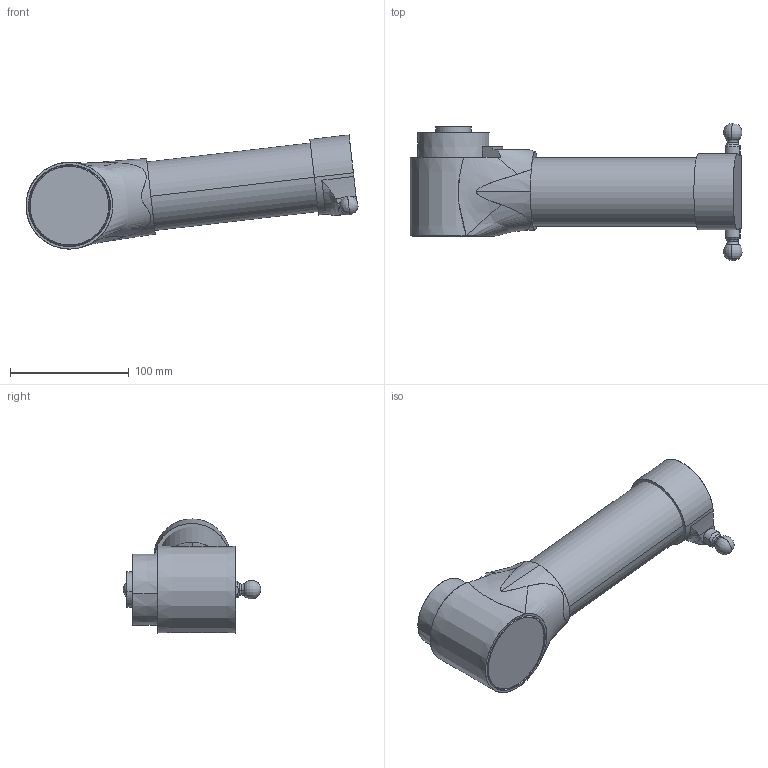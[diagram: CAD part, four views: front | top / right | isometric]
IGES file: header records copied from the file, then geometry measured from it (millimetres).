
Start section: SolidWorks IGES file using analytic representation for surfaces
Global section: file name: C:\Users\SELUHAA\Desktop\Work items\545792\IGES\IRB360_X-800-WD-4D_rev03_IGES_J\IRB360_X-800-WD-4D_rev03_UA1_CAD.IGS; native system: SolidWorks 2022; preprocessor: SolidWorks 2022; author: SELUHAA; date: 231128.145214; units: millimetre
Bounding box: 279.32 x 115.88 x 96.01 mm (x, y, z)
Surface area: 109176.4 mm2 (no closed solid volume)
Topology: 0 solids, 0 shells, 95 faces, 2035 edges, 2033 vertices
Faces by surface type: revolution 50, bspline 45
